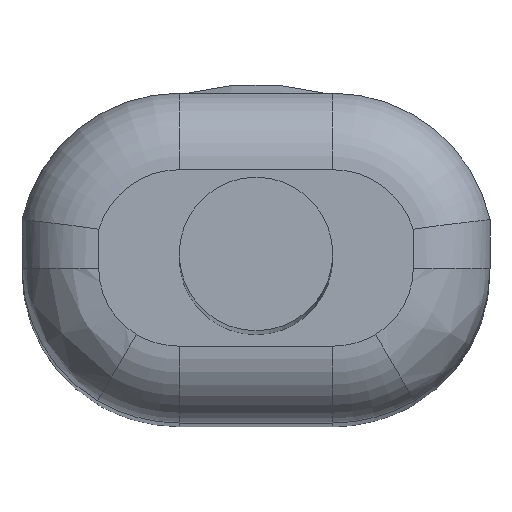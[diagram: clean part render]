
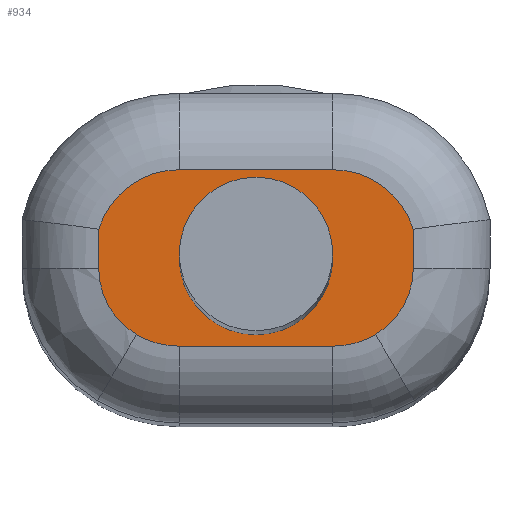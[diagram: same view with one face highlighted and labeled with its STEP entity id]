
A CAD part, top view. The second image highlights one B-rep face of the part: STEP entity #934.
In plain terms, the highlighted planar face has unit normal (0, 0, 1).
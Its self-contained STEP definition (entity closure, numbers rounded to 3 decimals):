
#445=CARTESIAN_POINT('',(1.0,0.,31.5));
#446=VERTEX_POINT('',#445);
#447=CARTESIAN_POINT('',(0.0,0.0,31.5));
#448=DIRECTION('',(0.0,0.0,-1.0));
#449=DIRECTION('',(-1.0,0.0,0.0));
#450=AXIS2_PLACEMENT_3D('',#447,#448,#449);
#451=CIRCLE('',#450,1.0);
#452=EDGE_CURVE('',#446,#446,#451,.T.);
#473=CARTESIAN_POINT('',(-2.05,-0.136,31.5));
#474=VERTEX_POINT('',#473);
#482=CARTESIAN_POINT('',(-2.05,0.374,31.5));
#483=VERTEX_POINT('',#482);
#484=CARTESIAN_POINT('',(-2.05,-0.136,31.5));
#485=DIRECTION('',(0.0,1.0,0.0));
#486=VECTOR('',#485,0.511);
#487=LINE('',#484,#486);
#488=EDGE_CURVE('',#474,#483,#487,.T.);
#519=CARTESIAN_POINT('',(-1.0,1.15,31.5));
#520=VERTEX_POINT('',#519);
#528=CARTESIAN_POINT('',(1.,1.15,31.5));
#529=VERTEX_POINT('',#528);
#530=CARTESIAN_POINT('',(-1.0,1.15,31.5));
#531=DIRECTION('',(1.0,0.0,0.0));
#532=VECTOR('',#531,2.0);
#533=LINE('',#530,#532);
#534=EDGE_CURVE('',#520,#529,#533,.T.);
#552=CARTESIAN_POINT('',(-1.0,0.052,31.5));
#553=DIRECTION('',(0.0,0.0,-1.0));
#554=DIRECTION('',(-0.627,0.779,0.0));
#555=AXIS2_PLACEMENT_3D('',#552,#553,#554);
#556=CIRCLE('',#555,1.098);
#557=EDGE_CURVE('',#483,#520,#556,.T.);
#580=CARTESIAN_POINT('',(2.05,0.374,31.5));
#581=VERTEX_POINT('',#580);
#582=CARTESIAN_POINT('',(1.0,0.052,31.5));
#583=DIRECTION('',(0.0,0.0,-1.));
#584=DIRECTION('',(0.627,0.779,0.0));
#585=AXIS2_PLACEMENT_3D('',#582,#583,#584);
#586=CIRCLE('',#585,1.098);
#587=EDGE_CURVE('',#529,#581,#586,.T.);
#612=CARTESIAN_POINT('',(2.05,-0.136,31.5));
#613=VERTEX_POINT('',#612);
#630=CARTESIAN_POINT('',(2.05,0.374,31.5));
#631=DIRECTION('',(0.0,-1.0,0.0));
#632=VECTOR('',#631,0.511);
#633=LINE('',#630,#632);
#634=EDGE_CURVE('',#581,#613,#633,.T.);
#664=CARTESIAN_POINT('',(-1.558,-0.998,31.5));
#665=VERTEX_POINT('',#664);
#673=CARTESIAN_POINT('',(-1.05,-0.136,31.5));
#674=DIRECTION('',(0.0,0.0,-1.));
#675=DIRECTION('',(-0.868,-0.496,0.0));
#676=AXIS2_PLACEMENT_3D('',#673,#674,#675);
#677=CIRCLE('',#676,1.0);
#678=EDGE_CURVE('',#665,#474,#677,.T.);
#714=CARTESIAN_POINT('',(1.558,-0.998,31.5));
#715=VERTEX_POINT('',#714);
#733=CARTESIAN_POINT('',(1.05,-0.136,31.5));
#734=DIRECTION('',(0.0,0.0,-1.));
#735=DIRECTION('',(0.868,-0.496,0.0));
#736=AXIS2_PLACEMENT_3D('',#733,#734,#735);
#737=CIRCLE('',#736,1.0);
#738=EDGE_CURVE('',#613,#715,#737,.T.);
#750=CARTESIAN_POINT('',(-1.,-1.15,31.5));
#751=VERTEX_POINT('',#750);
#759=CARTESIAN_POINT('',(-1.0,-0.052,31.5));
#760=DIRECTION('',(0.0,0.0,-1.0));
#761=DIRECTION('',(-0.263,-0.965,0.0));
#762=AXIS2_PLACEMENT_3D('',#759,#760,#761);
#763=CIRCLE('',#762,1.098);
#764=EDGE_CURVE('',#751,#665,#763,.T.);
#782=CARTESIAN_POINT('',(1.,-1.15,31.5));
#783=VERTEX_POINT('',#782);
#801=CARTESIAN_POINT('',(1.0,-0.052,31.5));
#802=DIRECTION('',(0.0,0.0,-1.0));
#803=DIRECTION('',(0.263,-0.965,0.0));
#804=AXIS2_PLACEMENT_3D('',#801,#802,#803);
#805=CIRCLE('',#804,1.098);
#806=EDGE_CURVE('',#715,#783,#805,.T.);
#824=CARTESIAN_POINT('',(1.,-1.15,31.5));
#825=DIRECTION('',(-1.0,0.0,0.0));
#826=VECTOR('',#825,2.);
#827=LINE('',#824,#826);
#828=EDGE_CURVE('',#783,#751,#827,.T.);
#914=CARTESIAN_POINT('',(0.0,0.,31.5));
#915=DIRECTION('',(0.0,0.0,1.0));
#916=DIRECTION('',(1.0,0.0,0.0));
#917=AXIS2_PLACEMENT_3D('',#914,#915,#916);
#918=PLANE('',#917);
#919=ORIENTED_EDGE('',*,*,#534,.F.);
#920=ORIENTED_EDGE('',*,*,#557,.F.);
#921=ORIENTED_EDGE('',*,*,#488,.F.);
#922=ORIENTED_EDGE('',*,*,#678,.F.);
#923=ORIENTED_EDGE('',*,*,#764,.F.);
#924=ORIENTED_EDGE('',*,*,#828,.F.);
#925=ORIENTED_EDGE('',*,*,#806,.F.);
#926=ORIENTED_EDGE('',*,*,#738,.F.);
#927=ORIENTED_EDGE('',*,*,#634,.F.);
#928=ORIENTED_EDGE('',*,*,#587,.F.);
#929=EDGE_LOOP('',(#919,#920,#921,#922,#923,#924,#925,#926,#927,#928));
#930=FACE_OUTER_BOUND('',#929,.T.);
#931=ORIENTED_EDGE('',*,*,#452,.T.);
#932=EDGE_LOOP('',(#931));
#933=FACE_BOUND('',#932,.T.);
#934=ADVANCED_FACE('',(#930,#933),#918,.T.);
